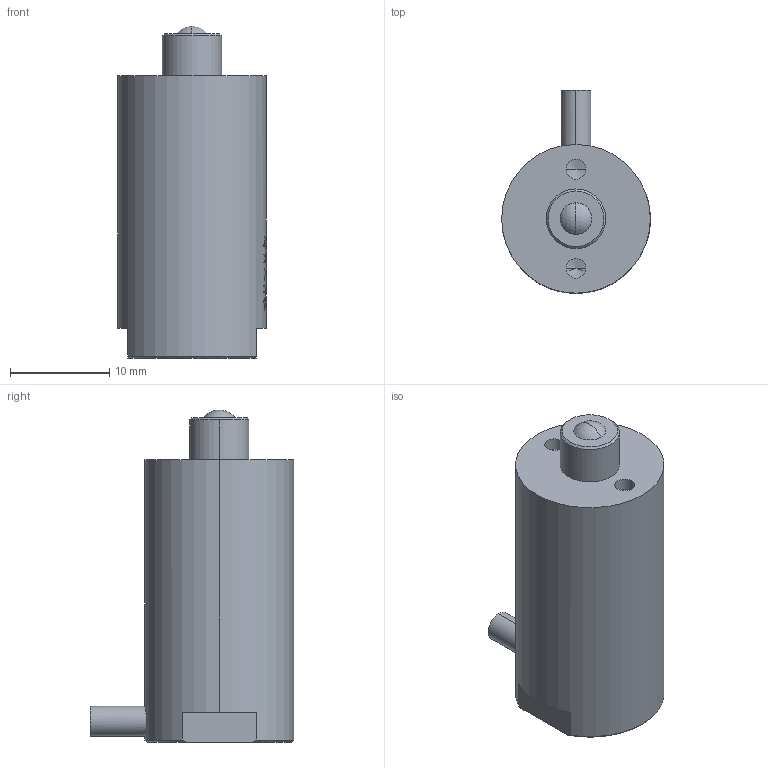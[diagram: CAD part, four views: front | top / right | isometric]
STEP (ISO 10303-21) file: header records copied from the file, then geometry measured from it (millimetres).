
FILE_DESCRIPTION (( 'STEP AP203' ), '1' );
FILE_NAME ('20VS15球头.STEP', '2024-11-30T03:32:00', ( 'daohangxitong.com' ), ( 'daohangxitong.com' ), 'SwSTEP 2.0', 'SolidWorks 2016', '' );
FILE_SCHEMA (( 'CONFIG_CONTROL_DESIGN' ));
Length unit declared in the file: millimetre
Products named in the file (1): 20VS15球头
Bounding box: 15 x 20.5 x 33.5 mm (x, y, z)
Volume: 5111.2 mm3; surface area: 1892.3 mm2
Topology: 1 solids, 1 shells, 757 faces, 2172 edges, 1442 vertices
Faces by surface type: bspline 663, cylinder 42, plane 38, cone 12, sphere 2
Entity records: 41810 total; most frequent: CARTESIAN_POINT 27904, ORIENTED_EDGE 4332, EDGE_CURVE 2166, B_SPLINE_CURVE_WITH_KNOTS 2035, VERTEX_POINT 1442, EDGE_LOOP 788, FACE_OUTER_BOUND 757, ADVANCED_FACE 757
